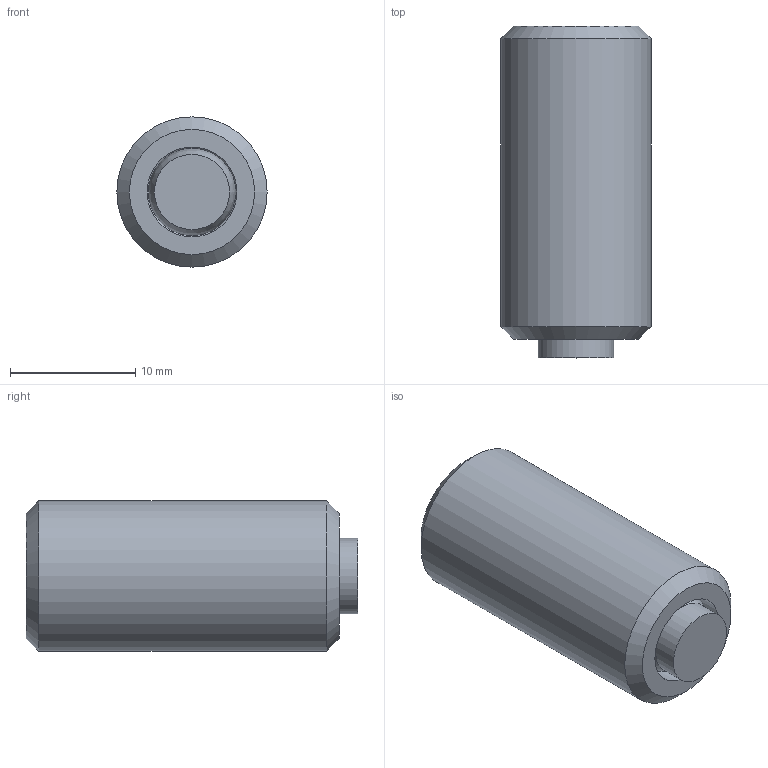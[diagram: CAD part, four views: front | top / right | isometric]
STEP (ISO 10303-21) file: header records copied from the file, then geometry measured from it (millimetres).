
FILE_DESCRIPTION( ( 'STEP AP203' ), '1' );
FILE_NAME( 'C:/Temp/Ganter_Step_05_03_2020/data/3_2/gn_709_8/gn_709_8k/Clamping pad GN 709.8-M12-25-K (0).stp', '2020-03-13T05:38:04', ( 'License CC BY-ND 4.0' ), ( 'CADENAS' ), ' ', 'PARTsolutions', ' ' );
FILE_SCHEMA( ( 'CONFIG_CONTROL_DESIGN' ) );
Length unit declared in the file: millimetre
Products named in the file (3): Clamping pad GN 709.8-M12-25-K (0); _Pendelelement GN 709.8-M12-25-K-1; _Pendelelement GN 709.8-M12-25-K-2
Assembly tree (2 placements, depth 2):
  Clamping pad GN 709.8-M12-25-K (0)
    _Pendelelement GN 709.8-M12-25-K-1
    _Pendelelement GN 709.8-M12-25-K-2
Bounding box: 12 x 26.5 x 12 mm (x, y, z)
Volume: 2587.8 mm3; surface area: 1544.8 mm2
Topology: 2 solids, 2 shells, 18 faces, 36 edges, 23 vertices
Faces by surface type: plane 11, cone 3, cylinder 3, sphere 1
Full cylindrical faces by diameter (mm): 6 x1, 7.18 x1, 12 x1
Entity records: 524 total; most frequent: DIRECTION 78, CARTESIAN_POINT 70, ORIENTED_EDGE 54, AXIS2_PLACEMENT_3D 30, EDGE_CURVE 27, EDGE_LOOP 26, VERTEX_POINT 22, FACE_OUTER_BOUND 21
